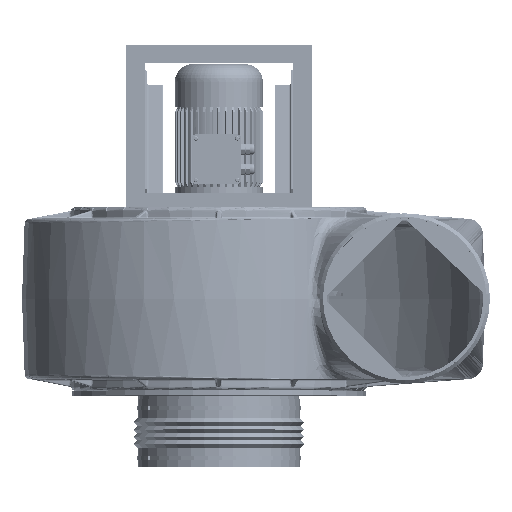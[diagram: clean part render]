
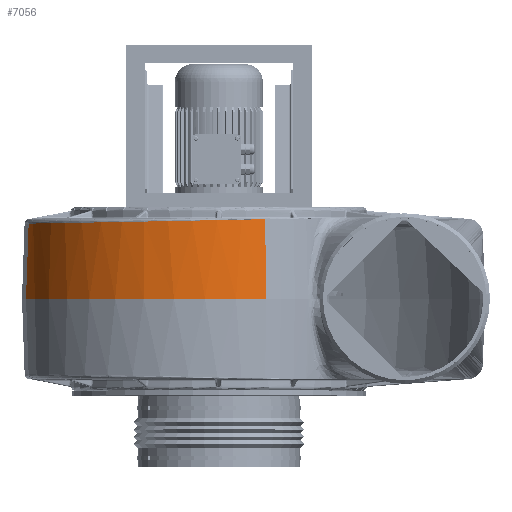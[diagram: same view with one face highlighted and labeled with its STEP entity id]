
A CAD part, top view. The second image highlights one B-rep face of the part: STEP entity #7056.
In plain terms, the highlighted face is a revolution surface.
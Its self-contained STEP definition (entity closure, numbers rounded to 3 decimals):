
#7056 = ADVANCED_FACE( '', ( #15067 ), #15068, .T. );
#15067 = FACE_OUTER_BOUND( '', #38991, .T. );
#15068 = SURFACE_OF_REVOLUTION( '', #38992, #38993 );
#38991 = EDGE_LOOP( '', ( #73277, #73278, #73279, #73280 ) );
#38992 = B_SPLINE_CURVE_WITH_KNOTS( '', 1, ( #73281, #73282, #73283 ), .UNSPECIFIED., .F., .F., ( 2, 1, 2 ), ( 0., 1., 1.01 ), .UNSPECIFIED. );
#38993 = AXIS1_PLACEMENT( '', #73284, #73285 );
#73277 = ORIENTED_EDGE( '', *, *, #90243, .F. );
#73278 = ORIENTED_EDGE( '', *, *, #95289, .F. );
#73279 = ORIENTED_EDGE( '', *, *, #91012, .T. );
#73280 = ORIENTED_EDGE( '', *, *, #95290, .F. );
#73281 = CARTESIAN_POINT( '', ( 0., -228.838, 318.624 ) );
#73282 = CARTESIAN_POINT( '', ( -177.5, -225.382, 313.478 ) );
#73283 = CARTESIAN_POINT( '', ( -179.275, -225.348, 313.427 ) );
#73284 = CARTESIAN_POINT( '', ( -88.75, -31.745, -31.745 ) );
#73285 = DIRECTION( '', ( -1., 0., 0. ) );
#90243 = EDGE_CURVE( '', #98562, #98564, #98565, .F. );
#91012 = EDGE_CURVE( '', #99882, #99880, #99883, .T. );
#95289 = EDGE_CURVE( '', #99882, #98562, #106348, .T. );
#95290 = EDGE_CURVE( '', #98564, #99880, #106349, .F. );
#98562 = VERTEX_POINT( '', #111014 );
#98564 = VERTEX_POINT( '', #111033 );
#98565 = B_SPLINE_CURVE_WITH_KNOTS( '', 3, ( #111034, #111035, #111036, #111037, #111038, #111039, #111040, #111041, #111042, #111043, #111044, #111045, #111046, #111047, #111048, #111049, #111050, #111051, #111052, #111053, #111054, #111055, #111056, #111057, #111058, #111059, #111060, #111061, #111062, #111063, #111064, #111065, #111066, #111067 ), .UNSPECIFIED., .F., .F., ( 4, 2, 2, 2, 2, 2, 2, 2, 2, 2, 2, 2, 2, 2, 2, 2, 4 ), ( 0., 0.016, 0.081, 0.147, 0.212, 0.278, 0.344, 0.409, 0.475, 0.541, 0.606, 0.672, 0.737, 0.803, 0.869, 0.934, 1. ), .UNSPECIFIED. );
#99880 = VERTEX_POINT( '', #114343 );
#99882 = VERTEX_POINT( '', #114348 );
#99883 = CIRCLE( '', #114349, 402. );
#106348 = B_SPLINE_CURVE_WITH_KNOTS( '', 1, ( #132824, #132825 ), .UNSPECIFIED., .F., .F., ( 2, 2 ), ( 0., 0.937 ), .UNSPECIFIED. );
#106349 = B_SPLINE_CURVE_WITH_KNOTS( '', 3, ( #132826, #132827, #132828, #132829 ), .UNSPECIFIED., .F., .F., ( 4, 4 ), ( 0., 0.989 ), .UNSPECIFIED. );
#111014 = CARTESIAN_POINT( '', ( -166.362, -419.962, 47.433 ) );
#111033 = CARTESIAN_POINT( '', ( -175.553, 102.351, 340.742 ) );
#111034 = CARTESIAN_POINT( '', ( -175.553, 102.35, 340.743 ) );
#111035 = CARTESIAN_POINT( '', ( -175.482, 99.024, 341.942 ) );
#111036 = CARTESIAN_POINT( '', ( -175.41, 95.682, 343.098 ) );
#111037 = CARTESIAN_POINT( '', ( -175.037, 78.224, 348.873 ) );
#111038 = CARTESIAN_POINT( '', ( -174.735, 63.858, 352.744 ) );
#111039 = CARTESIAN_POINT( '', ( -174.136, 34.782, 358.847 ) );
#111040 = CARTESIAN_POINT( '', ( -173.838, 20.071, 361.08 ) );
#111041 = CARTESIAN_POINT( '', ( -173.248, -9.509, 363.879 ) );
#111042 = CARTESIAN_POINT( '', ( -172.956, -24.378, 364.445 ) );
#111043 = CARTESIAN_POINT( '', ( -172.38, -54.088, 363.903 ) );
#111044 = CARTESIAN_POINT( '', ( -172.096, -68.928, 362.795 ) );
#111045 = CARTESIAN_POINT( '', ( -171.539, -98.39, 358.919 ) );
#111046 = CARTESIAN_POINT( '', ( -171.267, -113.013, 356.15 ) );
#111047 = CARTESIAN_POINT( '', ( -170.735, -141.856, 348.988 ) );
#111048 = CARTESIAN_POINT( '', ( -170.476, -156.076, 344.594 ) );
#111049 = CARTESIAN_POINT( '', ( -169.973, -183.933, 334.235 ) );
#111050 = CARTESIAN_POINT( '', ( -169.73, -197.57, 328.271 ) );
#111051 = CARTESIAN_POINT( '', ( -169.263, -224.089, 314.847 ) );
#111052 = CARTESIAN_POINT( '', ( -169.039, -236.97, 307.388 ) );
#111053 = CARTESIAN_POINT( '', ( -168.612, -261.814, 291.068 ) );
#111054 = CARTESIAN_POINT( '', ( -168.41, -273.777, 282.208 ) );
#111055 = CARTESIAN_POINT( '', ( -168.028, -296.63, 263.199 ) );
#111056 = CARTESIAN_POINT( '', ( -167.849, -307.522, 253.051 ) );
#111057 = CARTESIAN_POINT( '', ( -167.518, -328.096, 231.593 ) );
#111058 = CARTESIAN_POINT( '', ( -167.366, -337.778, 220.284 ) );
#111059 = CARTESIAN_POINT( '', ( -167.091, -355.811, 196.649 ) );
#111060 = CARTESIAN_POINT( '', ( -166.968, -364.161, 184.323 ) );
#111061 = CARTESIAN_POINT( '', ( -166.754, -379.423, 158.81 ) );
#111062 = CARTESIAN_POINT( '', ( -166.663, -386.336, 145.623 ) );
#111063 = CARTESIAN_POINT( '', ( -166.515, -398.634, 118.556 ) );
#111064 = CARTESIAN_POINT( '', ( -166.458, -404.021, 104.676 ) );
#111065 = CARTESIAN_POINT( '', ( -166.382, -413.199, 76.397 ) );
#111066 = CARTESIAN_POINT( '', ( -166.362, -416.991, 61.999 ) );
#111067 = CARTESIAN_POINT( '', ( -166.362, -419.962, 47.433 ) );
#114343 = CARTESIAN_POINT( '', ( 0., 104.563, 346.441 ) );
#114348 = CARTESIAN_POINT( '', ( 0., -425.729, 48.135 ) );
#114349 = AXIS2_PLACEMENT_3D( '', #142998, #142999, #143000 );
#132824 = CARTESIAN_POINT( '', ( 0., -425.729, 48.135 ) );
#132825 = CARTESIAN_POINT( '', ( -166.362, -419.962, 47.433 ) );
#132826 = CARTESIAN_POINT( '', ( 0., 104.563, 346.441 ) );
#132827 = CARTESIAN_POINT( '', ( -58.518, 103.826, 344.541 ) );
#132828 = CARTESIAN_POINT( '', ( -117.036, 103.09, 342.641 ) );
#132829 = CARTESIAN_POINT( '', ( -175.553, 102.353, 340.741 ) );
#142998 = CARTESIAN_POINT( '', ( 0., -31.745, -31.745 ) );
#142999 = DIRECTION( '', ( -1., 0., 0. ) );
#143000 = DIRECTION( '', ( 0., -1., 0. ) );
